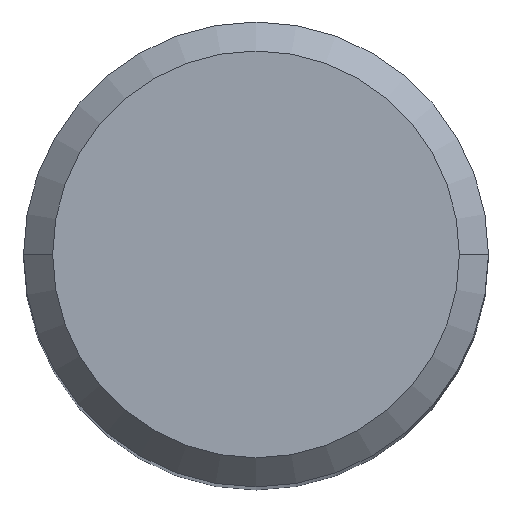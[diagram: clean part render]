
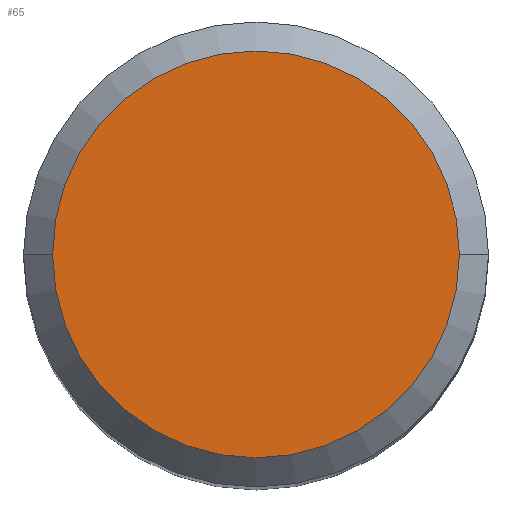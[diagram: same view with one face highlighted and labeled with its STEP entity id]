
A CAD part, top view. The second image highlights one B-rep face of the part: STEP entity #65.
In plain terms, the highlighted planar face has unit normal (0, 0, 1).
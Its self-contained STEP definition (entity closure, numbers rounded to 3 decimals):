
#65=ADVANCED_FACE('',(#125),#126,.T.);
#125=FACE_OUTER_BOUND('',#176,.T.);
#126=PLANE('',#177);
#176=EDGE_LOOP('',(#283,#284));
#177=AXIS2_PLACEMENT_3D('',#285,#286,#287);
#283=ORIENTED_EDGE('',*,*,#319,.T.);
#284=ORIENTED_EDGE('',*,*,#309,.T.);
#285=CARTESIAN_POINT('',(0.0,0.0,0.0));
#286=DIRECTION('',(0.0,0.0,1.0));
#287=DIRECTION('',(1.0,0.0,0.0));
#309=EDGE_CURVE('',#364,#362,#365,.T.);
#319=EDGE_CURVE('',#362,#364,#375,.T.);
#362=VERTEX_POINT('',#426);
#364=VERTEX_POINT('',#429);
#365=CIRCLE('',#430,5.25);
#375=CIRCLE('',#443,5.25);
#426=CARTESIAN_POINT('',(-5.25,0.0,0.0));
#429=CARTESIAN_POINT('',(5.25,0.,0.0));
#430=AXIS2_PLACEMENT_3D('',#481,#482,#483);
#443=AXIS2_PLACEMENT_3D('',#496,#497,#498);
#481=CARTESIAN_POINT('',(0.0,0.0,0.0));
#482=DIRECTION('',(0.0,0.0,1.0));
#483=DIRECTION('',(-1.0,0.0,0.0));
#496=CARTESIAN_POINT('',(0.0,0.0,0.0));
#497=DIRECTION('',(0.0,0.0,1.0));
#498=DIRECTION('',(-1.0,0.0,0.0));
